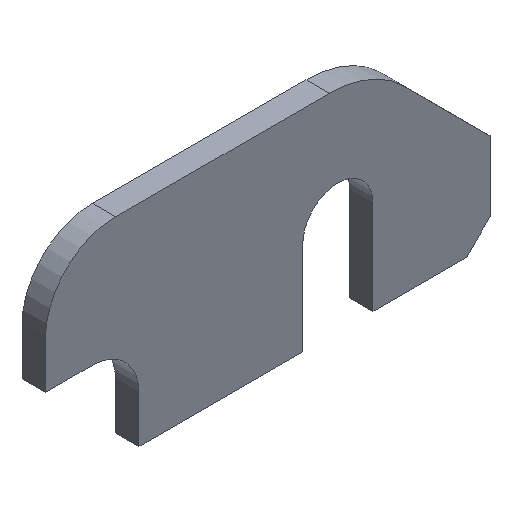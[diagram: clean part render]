
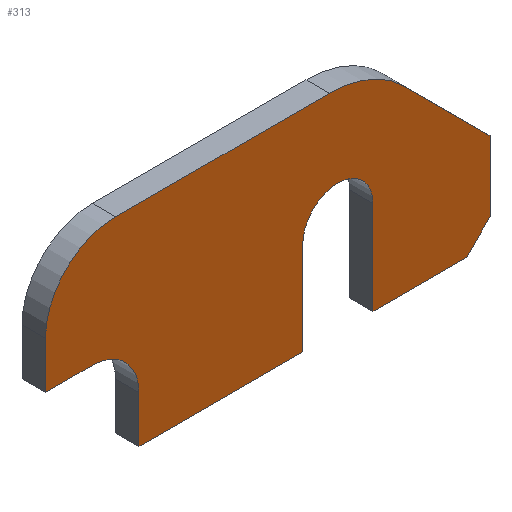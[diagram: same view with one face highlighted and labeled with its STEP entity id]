
A CAD part, isometric view. The second image highlights one B-rep face of the part: STEP entity #313.
In plain terms, the highlighted planar face has unit normal (0, -1, 0).
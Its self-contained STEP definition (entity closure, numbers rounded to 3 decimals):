
#19=FACE_OUTER_BOUND('',#36,.T.);
#36=EDGE_LOOP('',(#210,#211,#212,#213,#214,#215,#216,#217,#218,#219,#220,
#221,#222,#223,#224));
#53=LINE('',#470,#90);
#54=LINE('',#472,#91);
#55=LINE('',#474,#92);
#56=LINE('',#476,#93);
#57=LINE('',#478,#94);
#58=LINE('',#482,#95);
#59=LINE('',#486,#96);
#60=LINE('',#488,#97);
#61=LINE('',#492,#98);
#62=LINE('',#494,#99);
#63=LINE('',#495,#100);
#90=VECTOR('',#381,10.);
#91=VECTOR('',#382,10.);
#92=VECTOR('',#383,10.);
#93=VECTOR('',#384,10.);
#94=VECTOR('',#385,10.);
#95=VECTOR('',#388,10.);
#96=VECTOR('',#391,10.);
#97=VECTOR('',#392,10.);
#98=VECTOR('',#395,10.);
#99=VECTOR('',#396,10.);
#100=VECTOR('',#397,10.);
#127=CIRCLE('',#351,15.);
#128=CIRCLE('',#352,45.);
#129=CIRCLE('',#353,30.);
#130=CIRCLE('',#354,20.);
#135=VERTEX_POINT('',#466);
#136=VERTEX_POINT('',#467);
#137=VERTEX_POINT('',#469);
#138=VERTEX_POINT('',#471);
#139=VERTEX_POINT('',#473);
#140=VERTEX_POINT('',#475);
#141=VERTEX_POINT('',#477);
#142=VERTEX_POINT('',#479);
#143=VERTEX_POINT('',#481);
#144=VERTEX_POINT('',#483);
#145=VERTEX_POINT('',#485);
#146=VERTEX_POINT('',#487);
#147=VERTEX_POINT('',#489);
#148=VERTEX_POINT('',#491);
#149=VERTEX_POINT('',#493);
#165=EDGE_CURVE('',#135,#136,#127,.T.);
#166=EDGE_CURVE('',#136,#137,#53,.T.);
#167=EDGE_CURVE('',#137,#138,#54,.T.);
#168=EDGE_CURVE('',#138,#139,#55,.T.);
#169=EDGE_CURVE('',#139,#140,#56,.T.);
#170=EDGE_CURVE('',#140,#141,#57,.T.);
#171=EDGE_CURVE('',#141,#142,#128,.T.);
#172=EDGE_CURVE('',#142,#143,#58,.T.);
#173=EDGE_CURVE('',#143,#144,#129,.T.);
#174=EDGE_CURVE('',#144,#145,#59,.T.);
#175=EDGE_CURVE('',#145,#146,#60,.T.);
#176=EDGE_CURVE('',#146,#147,#130,.T.);
#177=EDGE_CURVE('',#147,#148,#61,.T.);
#178=EDGE_CURVE('',#148,#149,#62,.T.);
#179=EDGE_CURVE('',#149,#135,#63,.T.);
#210=ORIENTED_EDGE('',*,*,#165,.T.);
#211=ORIENTED_EDGE('',*,*,#166,.T.);
#212=ORIENTED_EDGE('',*,*,#167,.T.);
#213=ORIENTED_EDGE('',*,*,#168,.T.);
#214=ORIENTED_EDGE('',*,*,#169,.T.);
#215=ORIENTED_EDGE('',*,*,#170,.T.);
#216=ORIENTED_EDGE('',*,*,#171,.T.);
#217=ORIENTED_EDGE('',*,*,#172,.T.);
#218=ORIENTED_EDGE('',*,*,#173,.T.);
#219=ORIENTED_EDGE('',*,*,#174,.T.);
#220=ORIENTED_EDGE('',*,*,#175,.T.);
#221=ORIENTED_EDGE('',*,*,#176,.T.);
#222=ORIENTED_EDGE('',*,*,#177,.T.);
#223=ORIENTED_EDGE('',*,*,#178,.T.);
#224=ORIENTED_EDGE('',*,*,#179,.T.);
#300=PLANE('',#350);
#313=ADVANCED_FACE('',(#19),#300,.F.);
#350=AXIS2_PLACEMENT_3D('',#465,#377,#378);
#351=AXIS2_PLACEMENT_3D('',#468,#379,#380);
#352=AXIS2_PLACEMENT_3D('',#480,#386,#387);
#353=AXIS2_PLACEMENT_3D('',#484,#389,#390);
#354=AXIS2_PLACEMENT_3D('',#490,#393,#394);
#377=DIRECTION('center_axis',(0.,1.,0.));
#378=DIRECTION('ref_axis',(0.,0.,1.));
#379=DIRECTION('center_axis',(0.,1.,0.));
#380=DIRECTION('ref_axis',(0.989,0.,0.145));
#381=DIRECTION('',(0.,0.,-1.));
#382=DIRECTION('',(1.,0.,0.));
#383=DIRECTION('',(0.707,0.,0.707));
#384=DIRECTION('',(0.,0.,1.));
#385=DIRECTION('',(-0.707,0.,0.707));
#386=DIRECTION('center_axis',(0.,-1.,0.));
#387=DIRECTION('ref_axis',(0.,0.,1.));
#388=DIRECTION('',(-1.,0.,0.));
#389=DIRECTION('center_axis',(0.,-1.,0.));
#390=DIRECTION('ref_axis',(-1.,0.,0.));
#391=DIRECTION('',(0.,0.,-1.));
#392=DIRECTION('',(1.,0.,0.));
#393=DIRECTION('center_axis',(0.,1.,0.));
#394=DIRECTION('ref_axis',(0.,0.,-1.));
#395=DIRECTION('',(0.,0.,-1.));
#396=DIRECTION('',(1.,0.,0.));
#397=DIRECTION('',(0.,0.,1.));
#465=CARTESIAN_POINT('Origin',(0.,-5.,0.));
#466=CARTESIAN_POINT('',(15.,-5.,-5.));
#467=CARTESIAN_POINT('',(45.,-5.,-5.));
#468=CARTESIAN_POINT('Origin',(30.,-5.,-5.));
#469=CARTESIAN_POINT('',(45.,-5.,-45.));
#470=CARTESIAN_POINT('',(45.,-5.,-45.));
#471=CARTESIAN_POINT('',(85.,-5.,-45.));
#472=CARTESIAN_POINT('',(85.,-5.,-45.));
#473=CARTESIAN_POINT('',(95.,-5.,-35.));
#474=CARTESIAN_POINT('',(95.,-5.,-35.));
#475=CARTESIAN_POINT('',(95.,-5.,-5.));
#476=CARTESIAN_POINT('',(95.,-5.,-5.));
#477=CARTESIAN_POINT('',(58.18,-5.,31.82));
#478=CARTESIAN_POINT('',(58.18,-5.,31.82));
#479=CARTESIAN_POINT('',(26.36,-5.,45.));
#480=CARTESIAN_POINT('Origin',(26.36,-5.,0.));
#481=CARTESIAN_POINT('',(-65.,-5.,45.));
#482=CARTESIAN_POINT('',(-65.,-5.,45.));
#483=CARTESIAN_POINT('',(-95.,-5.,15.));
#484=CARTESIAN_POINT('Origin',(-65.,-5.,15.));
#485=CARTESIAN_POINT('',(-95.,-5.,-5.));
#486=CARTESIAN_POINT('',(-95.,-5.,-5.));
#487=CARTESIAN_POINT('',(-75.,-5.,-5.));
#488=CARTESIAN_POINT('',(-75.,-5.,-5.));
#489=CARTESIAN_POINT('',(-55.,-5.,-25.));
#490=CARTESIAN_POINT('Origin',(-75.,-5.,-25.));
#491=CARTESIAN_POINT('',(-55.,-5.,-45.));
#492=CARTESIAN_POINT('',(-55.,-5.,-45.));
#493=CARTESIAN_POINT('',(15.,-5.,-45.));
#494=CARTESIAN_POINT('',(15.,-5.,-45.));
#495=CARTESIAN_POINT('',(15.,-5.,-5.));
